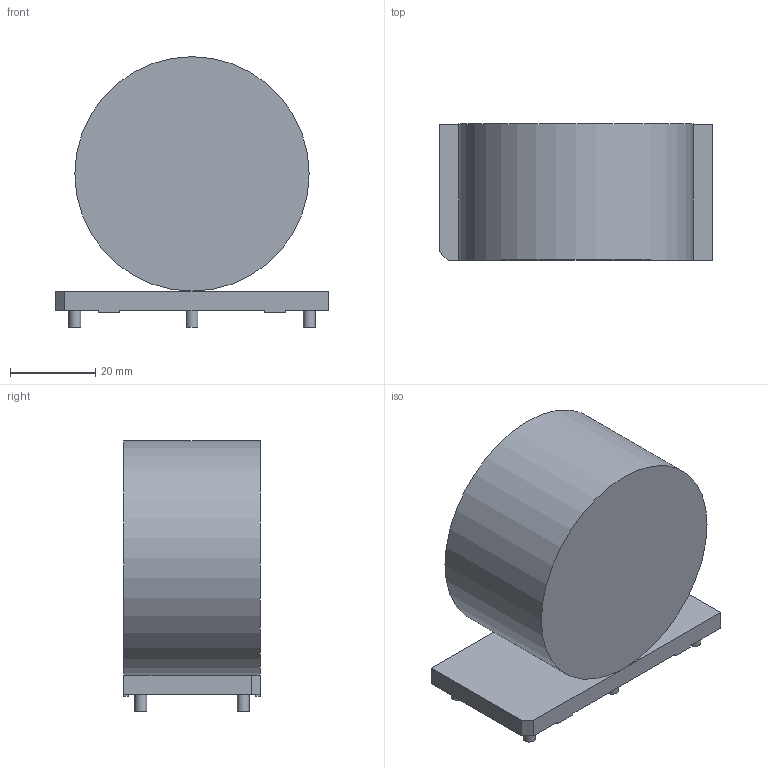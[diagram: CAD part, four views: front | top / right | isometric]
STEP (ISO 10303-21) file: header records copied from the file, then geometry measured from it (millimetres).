
FILE_DESCRIPTION(/* description */ (''),/* implementation_level */ '2;1');
FILE_NAME(/* name */ 'F:\Done\2016\多产品3D模拟\\X2\4FEE653994885F84\X0\\6122-X333\6122-X333 3D Model.stp',/* time_stamp */ '2016-07-08T15:31:15+08:00',/* author */ ('CN000562'),/* organization */ (''),/* preprocessor_version */ 'ST-DEVELOPER v16.5',/* originating_system */ 'Autodesk Inventor 2017',/* authorisation */ '');
FILE_SCHEMA (('AUTOMOTIVE_DESIGN { 1 0 10303 214 3 1 1 }'));
Length unit declared in the file: millimetre
Products named in the file (1): 6122-X326
Bounding box: 64 x 32 x 63.5 mm (x, y, z)
Volume: 66661.8 mm3; surface area: 15466.7 mm2
Topology: 1 solids, 2 shells, 39 faces, 86 edges, 56 vertices
Faces by surface type: plane 32, cylinder 7
Full cylindrical faces by diameter (mm): 2.8 x6, 55 x1
Entity records: 1062 total; most frequent: CARTESIAN_POINT 176, DIRECTION 174, ORIENTED_EDGE 162, EDGE_CURVE 80, LINE 66, VECTOR 66, VERTEX_POINT 56, AXIS2_PLACEMENT_3D 54
